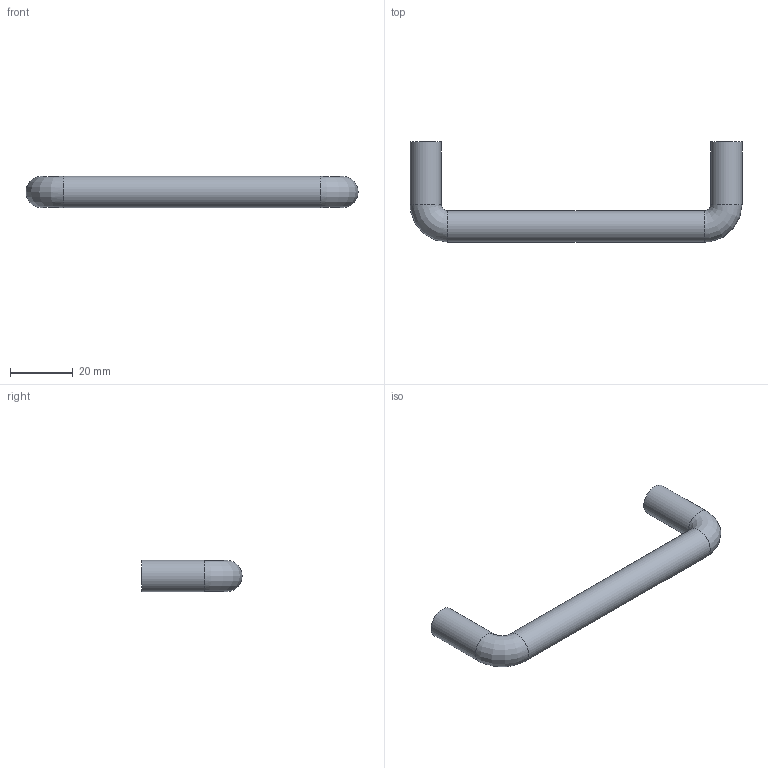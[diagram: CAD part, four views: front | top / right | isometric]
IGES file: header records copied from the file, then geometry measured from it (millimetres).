
Start section: Data from Parasolid IGES Translator 15.0.47, Copyright(c) 2006 Siemens P LM Software. All Rights Reserved.
Global section: file name: 9069815.igs; native system:  By UGS Corp.; preprocessor: XPlus GENERIC/IGES 3.0; author: Noname; organization: Noname; date: 20140122.155410; units: millimetre
Bounding box: 106 x 32 x 10 mm (x, y, z)
Surface area: 4932 mm2 (no closed solid volume)
Topology: 0 solids, 0 shells, 11 faces, 42 edges, 38 vertices
Faces by surface type: revolution 7, extrusion 4
